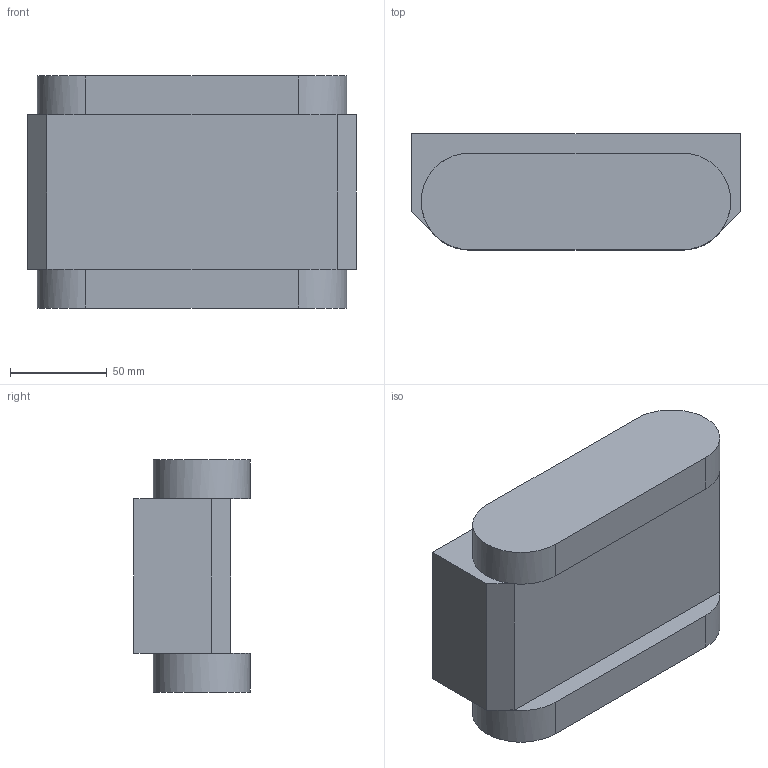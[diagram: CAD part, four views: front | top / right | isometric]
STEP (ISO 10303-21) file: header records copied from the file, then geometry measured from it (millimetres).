
FILE_DESCRIPTION (( 'STEP AP203' ), '1' );
FILE_NAME ('chenille_Défaut_sldprt.STEP', '2018-09-19T09:33:29', ( '' ), ( '' ), 'SwSTEP 2.0', 'SolidWorks 2016', '' );
FILE_SCHEMA (( 'CONFIG_CONTROL_DESIGN' ));
Length unit declared in the file: millimetre
Products named in the file (1): chenille_Défaut_sldprt
Bounding box: 170 x 60 x 120 mm (x, y, z)
Volume: 970539.8 mm3; surface area: 71664.2 mm2
Topology: 1 solids, 1 shells, 22 faces, 52 edges, 32 vertices
Faces by surface type: plane 16, cylinder 6
Entity records: 705 total; most frequent: DIRECTION 114, CARTESIAN_POINT 107, ORIENTED_EDGE 104, EDGE_CURVE 52, AXIS2_PLACEMENT_3D 39, LINE 36, VECTOR 36, VERTEX_POINT 32
